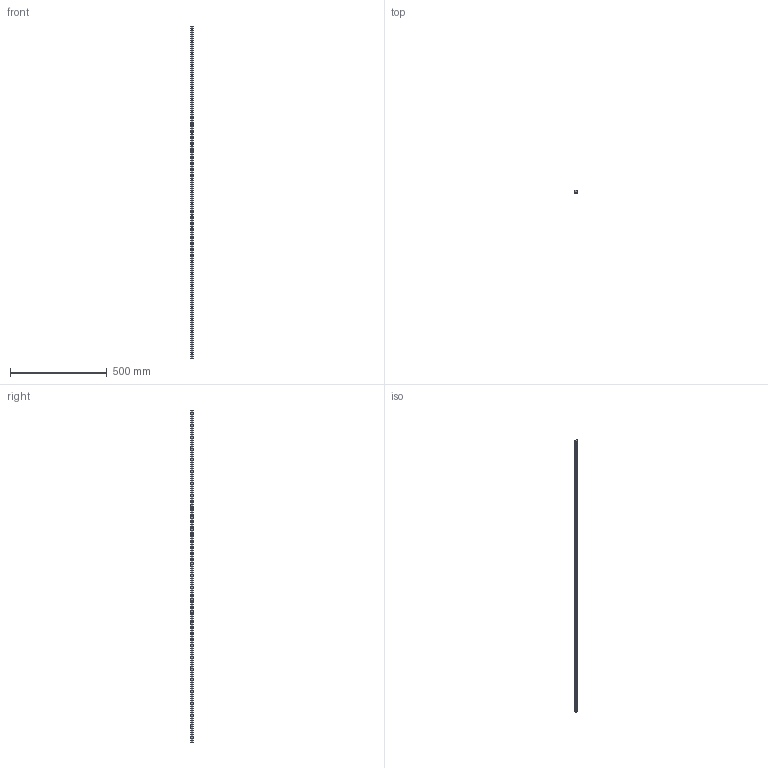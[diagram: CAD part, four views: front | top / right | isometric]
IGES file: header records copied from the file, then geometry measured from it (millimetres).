
Start section: SolidWorks IGES file using analytic representation for surfaces
Global section: file name: C:\Users\IanO\Desktop\L1016_v2\L1016.BL15_v2\L1016.BL15_v2_20190611_IGES\L1016.BL15-1720.igs; native system: SolidWorks 2017; preprocessor: SolidWorks 2017; author: IanO; date: 190612.122942; units: millimetre
Bounding box: 15 x 13 x 1720 mm (x, y, z)
Surface area: 105221.8 mm2 (no closed solid volume)
Topology: 0 solids, 0 shells, 171 faces, 4328 edges, 4328 vertices
Faces by surface type: revolution 120, bspline 51
